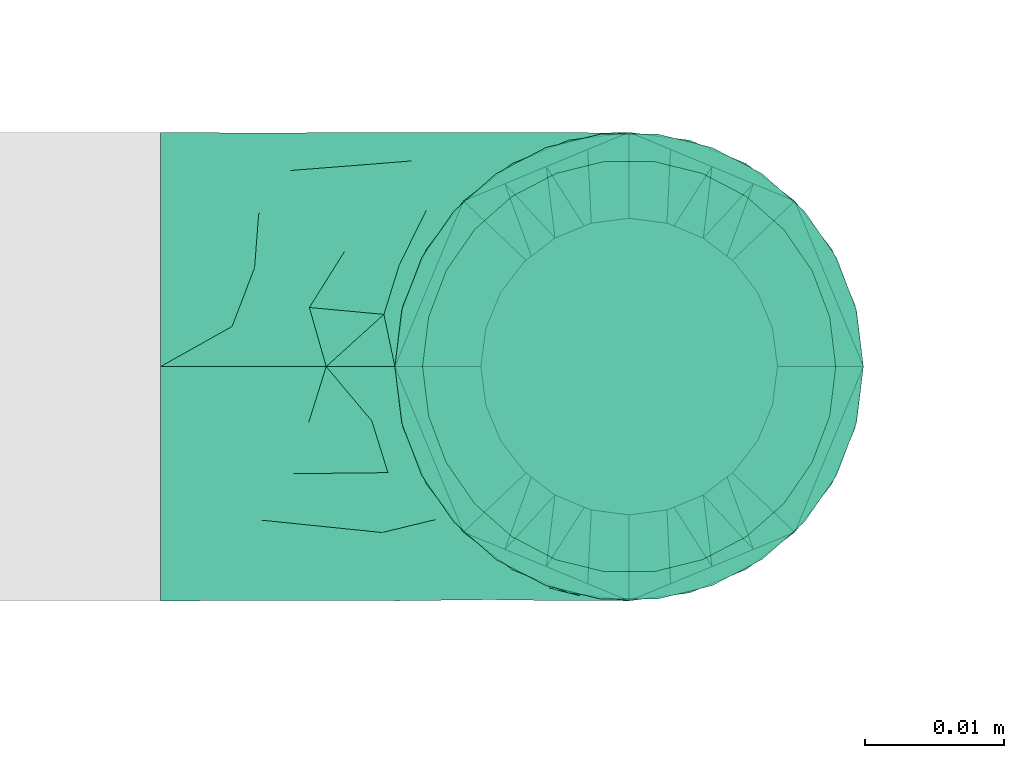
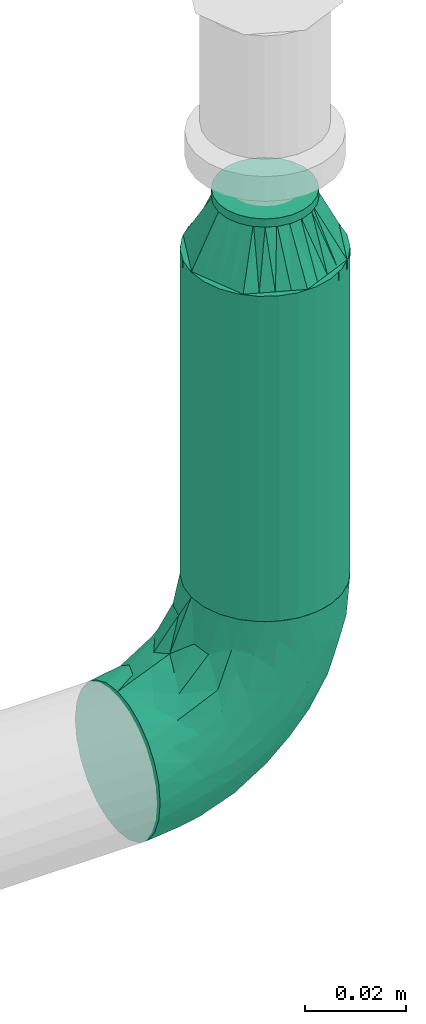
# One storey, part 70 of 94: 2 flow fittings, 1 flow segment.
"""IFC2X3 building model written with IfcOpenShell, lengths in millimetres."""

import ifcopenshell
import ifcopenshell.guid

model = None  # the IFC model being written
_history = None  # IfcOwnerHistory: only IFC2X3 demands one
_inside = {}  # id of a spatial element -> (the spatial element, [elements in it])
_under = {}  # id of a project, library or spatial element -> (it, [spatial elements below it])
_declared = {}  # id of a project -> (the project, [libraries it declares])
_typed = {}  # id of a type object -> (the type object, [elements of that type])
_made_of = {}  # id of a material, layer set ... -> (it, [elements and type objects made of it])


def new_model(schema):
    """Start an empty IFC model of exactly this schema.

    Asked for "IFC4X3", IfcOpenShell would pick the latest addendum, in which some entities
    have other attributes; the version numbers below select the first issue.
    IFC2X3 requires an IfcOwnerHistory on every rooted entity: one is made here for all.
    """
    global model, _history
    if schema == "IFC4X3":
        model = ifcopenshell.file(schema_version=(4, 3, 0, 0))
    else:
        model = ifcopenshell.file(schema=schema)
    _inside.clear()
    _under.clear()
    _declared.clear()
    _typed.clear()
    _made_of.clear()
    _history = None
    if model.schema == "IFC2X3":
        org = make("IfcOrganization", Name="unknown")
        user = make(
            "IfcPersonAndOrganization",
            ThePerson=make("IfcPerson", FamilyName="unknown"),
            TheOrganization=org,
        )
        app = make(
            "IfcApplication",
            ApplicationDeveloper=org,
            Version="unknown",
            ApplicationFullName="unknown",
            ApplicationIdentifier="unknown",
        )
        _history = make(
            "IfcOwnerHistory",
            OwningUser=user,
            OwningApplication=app,
            ChangeAction="ADDED",
            CreationDate=0,
        )
    return model


def make(cls, **values):
    """One entity of the class cls with the attributes given. An attribute that is None is left unset."""
    return model.create_entity(
        cls, **{name: value for name, value in values.items() if value is not None}
    )


def entity(cls, *values):
    """Any entity or typed value of the class cls, its attributes in the order of the schema. None: left unset."""
    e = model.create_entity(cls)
    for i, value in enumerate(values):
        if value is not None:
            e[i] = value
    return e


def rooted(cls, **values):
    """An entity with a GlobalId (a new one), such as an element, a storey or a relation."""
    return make(cls, GlobalId=ifcopenshell.guid.new(), OwnerHistory=_history, **values)


def si_unit(unit_type, name, prefix=None):
    """IfcSIUnit, for example si_unit("LENGTHUNIT", "METRE", prefix="MILLI")."""
    return make("IfcSIUnit", UnitType=unit_type, Prefix=prefix, Name=name)


def converted_unit(unit_type, name, factor, base, dimensions=None, offset=None):
    """IfcConversionBasedUnit, such as the inch: factor (a typed value) times the base unit."""
    return make(
        "IfcConversionBasedUnit"
        if offset is None
        else "IfcConversionBasedUnitWithOffset",
        ConversionOffset=offset,
        Dimensions=None
        if dimensions is None
        else entity("IfcDimensionalExponents", *dimensions),
        UnitType=unit_type,
        Name=name,
        ConversionFactor=make(
            "IfcMeasureWithUnit", ValueComponent=factor, UnitComponent=base
        ),
    )


def derived_unit(unit_type, elements):
    """IfcDerivedUnit: a product of units, each with its exponent."""
    return make(
        "IfcDerivedUnit",
        Elements=[
            make("IfcDerivedUnitElement", Unit=unit, Exponent=power)
            for unit, power in elements
        ],
        UnitType=unit_type,
    )


def assignment(units):
    """IfcUnitAssignment: the units of a project."""
    return None if units is None else make("IfcUnitAssignment", Units=units)


def point(xyz):
    """IfcCartesianPoint."""
    return None if xyz is None else make("IfcCartesianPoint", Coordinates=xyz)


def direction(xyz):
    """IfcDirection."""
    return None if xyz is None else make("IfcDirection", DirectionRatios=xyz)


def frame(location, z_axis=None, x_axis=None):
    """IfcAxis2Placement3D, a coordinate frame: its origin and axes. An axis left out is left unset."""
    return make(
        "IfcAxis2Placement3D",
        Location=point(location),
        Axis=direction(z_axis),
        RefDirection=direction(x_axis),
    )


def frame_2d(location, x_axis=None):
    """IfcAxis2Placement2D, a coordinate frame in the plane: its origin and x axis."""
    return make(
        "IfcAxis2Placement2D", Location=point(location), RefDirection=direction(x_axis)
    )


def origin_with_axes():
    """The frame at (0, 0, 0) with the z axis (0, 0, 1) and the x axis (1, 0, 0) written out."""
    return frame((0.0, 0.0, 0.0), z_axis=(0.0, 0.0, 1.0), x_axis=(1.0, 0.0, 0.0))


def origin_2d_with_axis():
    """The frame at (0, 0) in the plane with the x axis (1, 0) written out."""
    return frame_2d((0.0, 0.0), x_axis=(1.0, 0.0))


def place(relative_to, where):
    """IfcLocalPlacement: puts the frame where relative to a parent placement (None: the world)."""
    return make(
        "IfcLocalPlacement", PlacementRelTo=relative_to, RelativePlacement=where
    )


def context(
    kind, dimensions, precision=None, world=None, true_north=None, identifier=None
):
    """IfcGeometricRepresentationContext, for example the 3D "Model" context."""
    return make(
        "IfcGeometricRepresentationContext",
        ContextIdentifier=identifier,
        ContextType=kind,
        CoordinateSpaceDimension=dimensions,
        Precision=precision,
        WorldCoordinateSystem=world,
        TrueNorth=true_north,
    )


def subcontext(parent, identifier, kind, view, scale=None):
    """IfcGeometricRepresentationSubContext, for example "Body" below "Model"."""
    return make(
        "IfcGeometricRepresentationSubContext",
        ContextIdentifier=identifier,
        ContextType=kind,
        ParentContext=parent,
        TargetScale=scale,
        TargetView=view,
    )


def project(units=None, contexts=None):
    """IfcProject with its units and contexts."""
    return rooted(
        "IfcProject",
        Name="project",
        RepresentationContexts=contexts,
        UnitsInContext=assignment(units),
    )


def spatial(cls, under=None, at=None, **own):
    """A site, building, storey or space (cls), placed at a placement, below another one or the project."""
    s = rooted(cls, ObjectPlacement=at, **own)
    if under is not None:
        _under.setdefault(under.id(), (under, []))[1].append(s)
    return s


def profile(cls, at=None, kind="AREA", **sizes):
    """A parametric profile (cls). Its sizes go by their IFC names, for example OverallWidth=200.0."""
    return make(cls, ProfileType=kind, Position=at, **sizes)


def hollow_circle(**sizes):
    """IfcCircleHollowProfileDef."""
    return profile("IfcCircleHollowProfileDef", **sizes)


def extrude(swept, where, along, depth):
    """IfcExtrudedAreaSolid: the profile swept, set in the frame where, extruded along a direction by depth."""
    return make(
        "IfcExtrudedAreaSolid",
        SweptArea=swept,
        Position=where,
        ExtrudedDirection=direction(along),
        Depth=depth,
    )


def faces_of(points, faces, orient=None, outer=None):
    """IfcFace entities. A face is a list of loops; a loop is a list of indices into points, from 0.

    orient and outer hold one flag for each loop. By default every Orientation is true, the
    first loop of a face is its IfcFaceOuterBound and the others are IfcFaceBound.
    """
    made = []
    for i, loops in enumerate(faces):
        bounds = []
        for j, loop in enumerate(loops):
            is_outer = j == 0 if outer is None else outer[i][j]
            bounds.append(
                make(
                    "IfcFaceOuterBound" if is_outer else "IfcFaceBound",
                    Bound=make("IfcPolyLoop", Polygon=[points[k] for k in loop]),
                    Orientation=True if orient is None else orient[i][j],
                )
            )
        made.append(make("IfcFace", Bounds=bounds))
    return made


def open_shell(faces, orient=None, outer=None):
    """The faces of one IfcOpenShell. surface_model builds it on its shared points."""
    return ("IfcOpenShell", faces, orient, outer)


def surface_model(cls, points, shells):
    """IfcFaceBasedSurfaceModel or IfcShellBasedSurfaceModel (cls): surfaces that need not close."""
    shared = [point(p) for p in points]
    made = [make(c, CfsFaces=faces_of(shared, fs, o, b)) for c, fs, o, b in shells]
    if cls == "IfcFaceBasedSurfaceModel":
        return make(cls, FbsmFaces=made)
    return make(cls, SbsmBoundary=made)


def shape(context_of_items, identifier, shape_type, items):
    """IfcShapeRepresentation: the items that make up one representation, for example the "Body"."""
    return make(
        "IfcShapeRepresentation",
        ContextOfItems=context_of_items,
        RepresentationIdentifier=identifier,
        RepresentationType=shape_type,
        Items=items,
    )


def source(mapping_origin, context_of_items, identifier, shape_type, items):
    """IfcRepresentationMap: a shape defined once, which mapped items show again and again."""
    return make(
        "IfcRepresentationMap",
        MappingOrigin=mapping_origin,
        MappedRepresentation=shape(context_of_items, identifier, shape_type, items),
    )


def transform(
    local_origin,
    x_axis=None,
    y_axis=None,
    z_axis=None,
    scale=None,
    scale2=None,
    scale3=None,
    uniform=True,
):
    """IfcCartesianTransformationOperator3D, or its non-uniform kind. x_axis, y_axis, z_axis: its Axis1, 2, 3."""
    if uniform:
        return make(
            "IfcCartesianTransformationOperator3D",
            Axis1=direction(x_axis),
            Axis2=direction(y_axis),
            LocalOrigin=point(local_origin),
            Scale=scale,
            Axis3=direction(z_axis),
        )
    return make(
        "IfcCartesianTransformationOperator3DnonUniform",
        Axis1=direction(x_axis),
        Axis2=direction(y_axis),
        LocalOrigin=point(local_origin),
        Scale=scale,
        Axis3=direction(z_axis),
        Scale2=scale2,
        Scale3=scale3,
    )


def mapped(mapping_source, mapping_target):
    """IfcMappedItem: shows the shape of a source again, moved by a transform."""
    return make(
        "IfcMappedItem", MappingSource=mapping_source, MappingTarget=mapping_target
    )


def made_of(thing, what):
    """Note that an element or type object is made of a material, layer set ...; save() writes the relation."""
    if what is not None:
        _made_of.setdefault(what.id(), (what, []))[1].append(thing)
    return thing


def type_object(cls, material=None, **own):
    """A type object (cls), such as IfcWallType, which elements share."""
    return made_of(rooted(cls, **own), material)


def element(
    cls,
    number,
    at=None,
    inside=None,
    cuts=None,
    type_object=None,
    material=None,
    context=None,
    identifier="Body",
    shape_type=None,
    held_by="IfcProductDefinitionShape",
    body=None,
    shapes=None,
    **own,
):
    """One element of the class cls, such as IfcWall. Its Tag is "e" and its number.

    at: its placement. inside: the storey or other place that contains it. cuts: it is an
    opening in that element (IfcRelVoidsElement). A single representation is given by context,
    identifier, shape_type and body (its items); several are given by shapes. held_by: the class
    of the entity that holds the representations. save() writes the other relations.
    """
    e = rooted(cls, Tag="e%d" % number, ObjectPlacement=at, **own)
    if body is not None:
        shapes = [shape(context, identifier, shape_type, body)]
    if shapes is not None:
        e.Representation = make(held_by, Representations=shapes)
    if inside is not None:
        _inside.setdefault(inside.id(), (inside, []))[1].append(e)
    if cuts is not None:
        rooted(
            "IfcRelVoidsElement", RelatingBuildingElement=cuts, RelatedOpeningElement=e
        )
    if type_object is not None:
        _typed.setdefault(type_object.id(), (type_object, []))[1].append(e)
    return made_of(e, material)


def aggregate(whole, parts):
    """IfcRelAggregates: a whole, such as a stair, and the parts it consists of."""
    return rooted("IfcRelAggregates", RelatingObject=whole, RelatedObjects=parts)


def save(model, path):
    """Write the relations noted so far, then the file.

    IfcRelAggregates (storeys below a building ...), IfcRelContainedInSpatialStructure (elements
    in a storey), IfcRelDefinesByType, IfcRelAssociatesMaterial and IfcRelDeclares: one each for
    every whole, place, type object, material and project.
    """
    for whole, parts in _under.values():
        aggregate(whole, parts)
    for where, things in _inside.values():
        rooted(
            "IfcRelContainedInSpatialStructure",
            RelatedElements=things,
            RelatingStructure=where,
        )
    for kind, things in _typed.values():
        rooted("IfcRelDefinesByType", RelatedObjects=things, RelatingType=kind)
    for what, things in _made_of.values():
        rooted("IfcRelAssociatesMaterial", RelatedObjects=things, RelatingMaterial=what)
    for by, libraries in _declared.values():
        rooted("IfcRelDeclares", RelatingContext=by, RelatedDefinitions=libraries)
    model.write(path)


model = new_model("IFC2X3")

# Units and contexts
model_context = context("Model", 3, precision=0.01, world=frame((0.0, 4.29681676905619e-09, 0.0)), true_north=direction((4.01073788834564e-13, 1.0)))
plan_context = context("Plan", 3, precision=0.01, world=frame((0.0, 4.29681676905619e-09, 0.0)), true_north=direction((4.01073788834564e-13, 1.0)))
body_context = subcontext(model_context, "Body", "Model", "MODEL_VIEW")
ifc_project = project(units=[converted_unit("PLANEANGLEUNIT", "DEGREE", entity("IfcPositiveLengthMeasure", 0.0174532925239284), si_unit("PLANEANGLEUNIT", "RADIAN"), dimensions=[0, 0, 0, 0, 0, 0, 0]), si_unit("AREAUNIT", "SQUARE_METRE"), si_unit("LENGTHUNIT", "METRE", prefix="MILLI"), si_unit("MASSUNIT", "GRAM", prefix="KILO"), si_unit("POWERUNIT", "WATT"), si_unit("PRESSUREUNIT", "PASCAL"), si_unit("FORCEUNIT", "NEWTON", prefix="KILO"), si_unit("ELECTRICCURRENTUNIT", "AMPERE"), si_unit("THERMODYNAMICTEMPERATUREUNIT", "DEGREE_CELSIUS"), si_unit("TIMEUNIT", "SECOND"), si_unit("VOLUMEUNIT", "CUBIC_METRE"), derived_unit("LINEARVELOCITYUNIT", [(si_unit("LENGTHUNIT", "METRE"), 1), (si_unit("TIMEUNIT", "SECOND"), -1)]), derived_unit("VOLUMETRICFLOWRATEUNIT", [(si_unit("VOLUMEUNIT", "CUBIC_METRE"), 1), (si_unit("TIMEUNIT", "SECOND"), -1)]), derived_unit("THERMALTRANSMITTANCEUNIT", [(si_unit("POWERUNIT", "WATT"), 1), (si_unit("THERMODYNAMICTEMPERATUREUNIT", "KELVIN"), -1), (si_unit("AREAUNIT", "SQUARE_METRE"), -1)])], contexts=[model_context, plan_context])

# Site, building, storey
site_placement = place(None, frame((0.0, -4.29681676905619e-09, 0.0), z_axis=(0.0, 0.0, 1.0), x_axis=(1.0, 0.0, 0.0)))
site = spatial("IfcSite", under=ifc_project, at=site_placement, CompositionType="ELEMENT")
building_placement = place(site_placement, frame((0.0, 4.29681676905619e-09, 0.0), z_axis=(0.0, 0.0, 1.0), x_axis=(1.0, 0.0, 0.0)))
building = spatial("IfcBuilding", under=site, at=building_placement, Name="mc-building", CompositionType="ELEMENT")
storey_placement = place(building_placement, frame((0.0, 0.0, 200300.0), z_axis=(0.0, 0.0, 1.0), x_axis=(1.0, 0.0, 0.0)))
storey = spatial("IfcBuildingStorey", under=building, at=storey_placement, Name="Nivå C", CompositionType="ELEMENT", Elevation=200300.0)

# Flow fittings
pipe_fitting_type_1 = type_object("IfcPipeFittingType", Name="magi_pipe_fe_reducer_centric_short_NOR", PredefinedType="TRANSITION")
shared_shape_1 = source(origin_with_axes(), body_context, "Body", "SurfaceModel", [
    surface_model("IfcShellBasedSurfaceModel", [(14.4, 5.35, -9.26647), (14.4, 0.0, -10.7), (14.4, 2.76936, -10.33541), (14.4, 10.33541, -2.76936), (14.4, 7.56604, -7.56604), (14.4, -10.33541, -2.76936), (14.4, 9.26647, -5.35), (14.4, 0.0, 10.7), (14.4, -5.35, -9.26647), (14.4, -2.76936, -10.33541), (14.4, -7.56604, -7.56604), (14.4, -9.26647, -5.35), (14.4, 10.7, 0.0), (14.4, 10.33541, 2.76936), (14.4, 9.26647, 5.35), (14.4, 7.56604, 7.56604), (14.4, 2.76936, 10.33541), (14.4, 5.35, 9.26647), (14.4, -10.33541, 2.76936), (14.4, -7.56604, 7.56604), (14.4, -9.26647, 5.35), (14.4, -10.7, 0.0), (14.4, -2.76936, 10.33541), (14.4, -5.35, 9.26647), (12.4, 2.76936, 10.33541), (12.4, -10.33541, -2.76936), (12.4, 0.0, 10.7), (12.4, 5.35, 9.26647), (12.4, 7.56604, 7.56604), (12.4, 9.26647, 5.35), (12.4, 10.33541, 2.76936), (12.4, -10.33541, 2.76936), (12.4, -2.76936, 10.33541), (12.4, -7.56604, 7.56604), (12.4, -5.35, 9.26647), (12.4, -9.26647, 5.35), (12.4, -10.7, 0.0), (12.4, 10.33541, -2.76936), (12.4, 5.35, -9.26647), (12.4, 9.26647, -5.35), (12.4, 7.56604, -7.56604), (12.4, 2.76936, -10.33541), (12.4, -9.26647, -5.35), (12.4, -5.35, -9.26647), (12.4, -7.56604, -7.56604), (12.4, 0.0, -10.7), (12.4, -2.76936, -10.33541), (12.4, 10.7, 0.0), (-2.0, 11.9501, 11.9501), (-2.0, 0.0, 16.9), (-2.0, 4.37404, 16.32415), (-2.0, 8.45, 14.63583), (-2.0, 14.63583, 8.45), (-2.0, 16.32415, 4.37404), (-2.0, -16.32415, 4.37404), (-2.0, -8.45, 14.63583), (-2.0, -14.63583, 8.45), (-2.0, -11.9501, 11.9501), (-2.0, -4.37404, 16.32415), (-2.0, -16.32415, -4.37404), (-2.0, -16.9, 0.0), (-2.0, -8.45, -14.63583), (-2.0, 16.32415, -4.37404), (-2.0, 11.9501, -11.9501), (-2.0, 14.63583, -8.45), (-2.0, 8.45, -14.63583), (-2.0, 4.37404, -16.32415), (-2.0, 0.0, -16.9), (-2.0, -11.9501, -11.9501), (-2.0, -14.63583, -8.45), (-2.0, -4.37404, -16.32415), (-2.0, 16.9, 0.0), (0.0, 4.37404, -16.32415), (0.0, 8.45, -14.63583), (0.0, 11.9501, -11.9501), (0.0, 0.0, -16.9), (0.0, 16.32415, -4.37404), (0.0, 16.32415, 4.37404), (0.0, 14.63583, -8.45), (0.0, -8.45, -14.63583), (0.0, -4.37404, -16.32415), (0.0, -11.9501, -11.9501), (0.0, -16.32415, -4.37404), (0.0, -14.63583, -8.45), (0.0, -16.32415, 4.37404), (0.0, 16.9, 0.0), (0.0, 14.63583, 8.45), (0.0, 11.9501, 11.9501), (0.0, 4.37404, 16.32415), (0.0, 8.45, 14.63583), (0.0, 0.0, 16.9), (0.0, -14.63583, 8.45), (0.0, -16.9, 0.0), (0.0, -8.45, 14.63583), (0.0, -11.9501, 11.9501), (0.0, -4.37404, 16.32415), (12.4, 9.3625, -2.31662), (0.0, 14.42505, -5.97505), (0.0, 15.66253, -2.98753), (12.4, -6.6875, -6.94985), (0.0, -13.18758, -8.96258), (0.0, 2.98753, -15.66253), (12.4, 0.0, -9.26647), (12.4, 6.6875, -6.94985), (0.0, 8.96258, -13.18758), (12.4, -9.3625, -2.31662), (0.0, -15.66253, -2.98753), (0.0, -14.42505, -5.97505), (0.0, 5.97505, -14.42505), (0.0, -2.98753, -15.66253), (0.0, -8.96258, -13.18758), (0.0, 13.18758, -8.96258), (12.4, 8.025, -4.63324), (12.4, -2.675, -9.26647), (12.4, 2.675, -9.26647), (0.0, -5.97505, -14.42505), (12.4, -8.025, -4.63324), (12.4, -9.3625, 2.31662), (0.0, -14.42505, 5.97505), (0.0, -15.66253, 2.98753), (12.4, 6.6875, 6.94985), (0.0, 13.18758, 8.96258), (0.0, -2.98753, 15.66253), (12.4, 0.0, 9.26647), (12.4, -6.6875, 6.94985), (0.0, -8.96258, 13.18758), (12.4, 9.3625, 2.31662), (0.0, 15.66253, 2.98753), (0.0, 14.42505, 5.97505), (0.0, -5.97505, 14.42505), (0.0, 2.98753, 15.66253), (0.0, 8.96258, 13.18758), (0.0, -13.18758, 8.96258), (12.4, -8.025, 4.63324), (12.4, 2.675, 9.26647), (12.4, -2.675, 9.26647), (0.0, 5.97505, 14.42505), (12.4, 8.025, 4.63324)], [open_shell([[[0, 1, 2]], [[3, 0, 4]], [[5, 0, 3]], [[3, 4, 6]], [[7, 5, 3]], [[1, 8, 9]], [[1, 0, 8]], [[10, 5, 11]], [[5, 10, 8]], [[0, 5, 8]], [[3, 12, 13]], [[13, 14, 15]], [[13, 15, 16]], [[7, 3, 16]], [[16, 15, 17]], [[7, 18, 5]], [[18, 19, 20]], [[21, 5, 18]], [[19, 22, 23]], [[22, 19, 18]], [[7, 22, 18]], [[13, 16, 3]], [[24, 25, 26]], [[27, 25, 24]], [[28, 29, 30]], [[28, 25, 27]], [[31, 26, 25]], [[32, 33, 34]], [[33, 32, 31]], [[33, 31, 35]], [[32, 26, 31]], [[31, 25, 36]], [[30, 37, 28]], [[25, 28, 37]], [[38, 37, 39]], [[37, 38, 25]], [[38, 39, 40]], [[41, 25, 38]], [[42, 43, 44]], [[43, 42, 25]], [[43, 45, 46]], [[43, 25, 41]], [[41, 45, 43]], [[37, 30, 47]], [[25, 5, 36]], [[42, 11, 25]], [[8, 44, 43]], [[42, 44, 10]], [[9, 43, 46]], [[25, 11, 5]], [[5, 21, 36]], [[9, 8, 43]], [[10, 44, 8]], [[10, 11, 42]], [[1, 9, 46]], [[46, 45, 1]], [[41, 2, 45]], [[38, 0, 41]], [[6, 40, 39]], [[38, 40, 4]], [[3, 39, 37]], [[38, 4, 0]], [[0, 2, 41]], [[12, 3, 37]], [[6, 39, 3]], [[6, 4, 40]], [[47, 12, 37]], [[45, 2, 1]], [[30, 13, 47]], [[29, 14, 30]], [[17, 28, 27]], [[29, 28, 15]], [[16, 27, 24]], [[30, 14, 13]], [[13, 12, 47]], [[16, 17, 27]], [[15, 28, 17]], [[15, 14, 29]], [[7, 16, 24]], [[24, 26, 7]], [[32, 22, 26]], [[34, 23, 32]], [[20, 33, 35]], [[34, 33, 19]], [[18, 35, 31]], [[34, 19, 23]], [[23, 22, 32]], [[21, 18, 31]], [[20, 35, 18]], [[20, 19, 33]], [[36, 21, 31]], [[26, 22, 7]], [[48, 49, 50]], [[48, 50, 51]], [[48, 52, 53]], [[48, 53, 49]], [[49, 53, 54]], [[55, 56, 57]], [[55, 58, 49]], [[56, 55, 49]], [[49, 54, 56]], [[54, 59, 60]], [[54, 53, 61]], [[53, 62, 63]], [[63, 62, 64]], [[63, 65, 66]], [[61, 53, 63]], [[67, 63, 66]], [[59, 68, 69]], [[68, 59, 61]], [[61, 67, 70]], [[59, 54, 61]], [[63, 67, 61]], [[53, 71, 62]], [[72, 73, 74]], [[75, 72, 74]], [[74, 76, 77]], [[76, 74, 78]], [[74, 77, 79]], [[75, 79, 80]], [[75, 74, 79]], [[81, 82, 83]], [[82, 81, 79]], [[79, 84, 82]], [[77, 76, 85]], [[77, 86, 87]], [[77, 87, 88]], [[88, 84, 79]], [[88, 87, 89]], [[84, 88, 90]], [[90, 91, 84]], [[92, 82, 84]], [[91, 93, 94]], [[91, 90, 93]], [[93, 90, 95]], [[79, 77, 88]], [[59, 82, 60]], [[69, 83, 59]], [[79, 68, 61]], [[69, 68, 81]], [[80, 61, 70]], [[59, 83, 82]], [[82, 92, 60]], [[80, 79, 61]], [[81, 68, 79]], [[81, 83, 69]], [[75, 80, 70]], [[70, 67, 75]], [[66, 72, 67]], [[65, 73, 66]], [[78, 63, 64]], [[65, 63, 74]], [[76, 64, 62]], [[65, 74, 73]], [[73, 72, 66]], [[85, 76, 62]], [[78, 64, 76]], [[78, 74, 63]], [[71, 85, 62]], [[67, 72, 75]], [[53, 77, 71]], [[52, 86, 53]], [[89, 48, 51]], [[52, 48, 87]], [[88, 51, 50]], [[53, 86, 77]], [[77, 85, 71]], [[88, 89, 51]], [[87, 48, 89]], [[87, 86, 52]], [[90, 88, 50]], [[50, 49, 90]], [[58, 95, 49]], [[55, 93, 58]], [[91, 57, 56]], [[55, 57, 94]], [[84, 56, 54]], [[55, 94, 93]], [[93, 95, 58]], [[92, 84, 54]], [[91, 56, 84]], [[91, 94, 57]], [[60, 92, 54]], [[49, 95, 90]], [[27, 34, 47]], [[47, 34, 43]], [[43, 38, 47]], [[43, 34, 36]], [[90, 87, 94]], [[92, 94, 87]], [[87, 74, 92]], [[75, 92, 74]], [[81, 92, 75]], [[74, 87, 85]], [[96, 97, 98]], [[81, 99, 100]], [[101, 102, 75]], [[98, 85, 47]], [[74, 103, 104]], [[104, 103, 38]], [[105, 106, 107]], [[38, 108, 104]], [[102, 109, 75]], [[110, 99, 81]], [[47, 96, 98]], [[103, 111, 112]], [[109, 102, 113]], [[36, 92, 106]], [[102, 101, 114]], [[110, 115, 43]], [[96, 112, 97]], [[107, 116, 105]], [[36, 106, 105]], [[113, 115, 109]], [[43, 115, 113]], [[116, 107, 100]], [[108, 38, 114]], [[111, 103, 74]], [[111, 97, 112]], [[99, 110, 43]], [[116, 100, 99]], [[101, 108, 114]], [[117, 118, 119]], [[87, 120, 121]], [[122, 123, 90]], [[119, 92, 36]], [[94, 124, 125]], [[125, 124, 34]], [[126, 127, 128]], [[34, 129, 125]], [[123, 130, 90]], [[131, 120, 87]], [[36, 117, 119]], [[124, 132, 133]], [[130, 123, 134]], [[47, 85, 127]], [[123, 122, 135]], [[131, 136, 27]], [[117, 133, 118]], [[128, 137, 126]], [[47, 127, 126]], [[134, 136, 130]], [[27, 136, 134]], [[137, 128, 121]], [[129, 34, 135]], [[132, 124, 94]], [[132, 118, 133]], [[120, 131, 27]], [[137, 121, 120]], [[122, 129, 135]]])]),
])
flow_fitting_1_placement = place(storey_placement, frame((530503.58385, 407003.74497, 2962.64799999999), z_axis=(0.0, -1.0, 0.0), x_axis=(0.0, 0.0, 1.0)))
element("IfcFlowFitting", 1, at=flow_fitting_1_placement, inside=storey, type_object=pipe_fitting_type_1, Name="magi_pipe_fe_reducer_centric_short_NOR", context=body_context, shape_type="MappedRepresentation", body=[
    mapped(shared_shape_1, transform((0.0, 0.0, 0.0), scale=1.0)),
])
pipe_fitting_type_2 = type_object("IfcPipeFittingType", Name="magi_pipe_fe_elbow_short_001", PredefinedType="BEND")
shared_shape_2 = source(origin_with_axes(), body_context, "Body", "SurfaceModel", [
    surface_model("IfcShellBasedSurfaceModel", [(-33.8, 8.45, -14.63583), (-33.8, 4.37404, -16.32415), (-33.8, 11.9501, -11.9501), (-33.8, -11.9501, -11.9501), (-33.8, -14.63583, -8.45), (-33.8, -8.45, -14.63583), (-33.8, 0.0, -16.9), (-33.8, -4.37404, -16.32415), (-33.8, -4.37404, 16.32415), (-33.8, 0.0, 16.9), (-33.8, -8.45, 14.63583), (-33.8, 16.32415, -4.37404), (-33.8, 14.63583, -8.45), (-33.8, -16.32415, -4.37404), (-33.8, -16.9, 0.0), (-33.8, -16.32415, 4.37404), (-33.8, 11.9501, 11.9501), (-33.8, 14.63583, 8.45), (-33.8, 16.32415, 4.37404), (-33.8, 4.37404, 16.32415), (-33.8, 8.45, 14.63583), (-33.8, -14.63583, 8.45), (-33.8, -11.9501, 11.9501), (-33.8, 16.9, 0.0), (-11.9501, 33.8, -11.9501), (0.0, 33.8, -16.9), (-4.37404, 33.8, -16.32415), (-8.45, 33.8, -14.63583), (-14.63583, 33.8, -8.45), (-16.32415, 33.8, -4.37404), (14.63583, 33.8, -8.45), (8.45, 33.8, 14.63583), (16.32415, 33.8, -4.37404), (8.45, 33.8, -14.63583), (11.9501, 33.8, -11.9501), (4.37404, 33.8, -16.32415), (16.32415, 33.8, 4.37404), (16.9, 33.8, 0.0), (-11.9501, 33.8, 11.9501), (-16.32415, 33.8, 4.37404), (-14.63583, 33.8, 8.45), (-8.45, 33.8, 14.63583), (-4.37404, 33.8, 16.32415), (11.9501, 33.8, 11.9501), (14.63583, 33.8, 8.45), (0.0, 33.8, 16.9), (4.37404, 33.8, 16.32415), (-16.9, 33.8, 0.0), (-24.79389, -13.12945, 9.48721), (-22.19287, -9.75018, 12.59315), (-24.09897, -14.97035, 0.0), (-14.93934, -10.76256, 8.5297), (-22.46095, -14.75051, 5.27077), (14.75051, 22.46094, 5.27077), (11.9251, 13.23888, 4.33236), (13.04069, 14.39795, 0.0), (7.71387, 13.68847, 11.55891), (9.75018, 22.19287, 12.59315), (4.10169, 13.0571, 14.04018), (-24.84007, -6.39063, 15.2048), (-25.81779, -2.23879, 16.61097), (-23.66549, 2.59054, 16.87119), (-26.50418, 14.06512, 11.08152), (-24.21253, 17.66365, 7.72657), (-29.58514, 15.86957, 7.00283), (-6.17382, -7.5455, 0.0), (-13.23888, -11.9251, 4.33236), (-14.39795, -13.04069, 0.0), (-17.81434, 18.87373, 11.97104), (-6.30846, 29.15138, 15.82987), (-2.31622, 25.28002, 16.85849), (-29.23923, 10.23435, 13.77053), (-1.45439, -2.85688, 7.61475), (-0.28326, 0.34872, 10.09509), (-5.74484, -4.04709, 10.4122), (-4.41137, 11.31918, 16.59407), (-8.39727, 3.10034, 15.7812), (-1.72649, 9.1306, 15.53089), (-17.39909, 24.75344, 7.64977), (-26.19233, 20.0512, 0.0), (-28.14518, 17.29657, 4.25857), (-26.05147, 6.6281, 15.96447), (-5.87354, 16.61944, 16.86968), (-12.51807, 12.51807, 16.48937), (-10.06312, 7.38516, 16.81295), (-3.01882, 3.01882, 13.81718), (-13.0571, -4.10169, 14.04018), (-16.82553, -0.15166, 16.38038), (10.76256, 14.93934, 8.5297), (13.12945, 24.79389, 9.48721), (6.39063, 24.84007, 15.2048), (2.23879, 25.81779, 16.61097), (-13.68847, -7.71387, 11.55891), (14.97035, 24.09897, 0.0), (-7.30894, 22.89991, 16.09489), (-10.67958, 26.17414, 14.008), (-12.78295, 18.26924, 15.06066), (-13.88562, 22.45231, 12.93244), (-18.04944, 15.16501, 14.04434), (-23.11658, 20.08178, 4.02986), (-21.84989, 21.84989, 0.0), (-18.55817, 25.48277, 3.93065), (-13.95142, 26.94732, 11.03289), (-18.57098, 7.23906, 16.59756), (-16.58335, 4.14122, 16.89279), (-17.96666, 11.46709, 15.63151), (-9.84453, 17.54304, 16.18938), (0.15166, 16.82553, 16.38038), (-23.27207, 11.47201, 14.23154), (3.84842, 5.86994, 10.70473), (-8.0212, -7.54413, 7.93275), (1.00345, -2.19508, 4.57414), (5.13203, 3.01004, 5.90201), (5.24161, 1.7543, 2.53265), (8.70457, 7.04947, 3.99182), (-20.0512, 26.19233, 0.0), (8.4852, 8.76699, 7.09296), (-4.55488, -6.72064, 4.90681), (2.05031, -2.05031, 0.0), (7.5455, 6.17382, 0.0), (-26.75399, 2.1369, -16.845), (-14.61995, 24.73803, -11.27736), (-28.45274, -13.45335, -9.81895), (-26.00469, 6.63555, -15.96645), (-23.06726, 20.04573, -4.26202), (-13.80647, -4.26506, -14.17873), (-14.67501, -0.21081, -16.07388), (-6.7902, -0.2828, -13.8478), (-24.53586, 11.08096, -14.13417), (-26.72048, 14.00837, -11.05776), (10.0967, 24.44989, -12.75976), (5.83237, 21.40218, -15.03047), (6.66249, 28.54238, -15.38093), (-20.38182, 15.48705, -12.74596), (12.53268, 21.23441, -9.15363), (12.54494, 15.67504, -5.54878), (9.7522, 12.89279, -8.66343), (-15.65186, 19.64213, -13.01327), (-12.03528, 20.66498, -14.67665), (-15.61907, 15.61906, -14.83879), (-25.56551, -15.26206, 0.0), (-24.65452, -15.12934, -5.50955), (13.45335, 28.45274, -9.81895), (15.12934, 24.65452, -5.50955), (-7.35442, -8.31014, -5.65563), (-15.67504, -12.54494, -5.54878), (-24.44989, -10.0967, -12.75976), (0.16522, 0.41303, -9.71728), (-5.70658, -5.33066, -8.89288), (-5.13869, -2.37198, -11.53565), (-21.23441, -12.53268, -9.15363), (0.71146, 7.93863, -14.09382), (0.21081, 14.67501, -16.07388), (3.49291, 14.42772, -14.76381), (-24.89911, -2.13088, -16.591), (-28.54238, -6.66249, -15.38093), (-18.44386, -7.71663, -13.26957), (2.13088, 24.89911, -16.591), (-28.64342, 17.44413, -2.89318), (1.70017, -1.28722, -5.09504), (-16.57067, 26.81947, -7.36596), (-17.69055, 27.4263, -3.76405), (-12.89279, -9.7522, -8.66343), (-5.96611, 5.96611, -15.95814), (-20.53709, 20.09345, -8.28985), (-2.1369, 26.75399, -16.845), (-6.89872, 24.58781, -16.02578), (-10.60739, 26.53157, -13.98044), (-21.40218, -5.83237, -15.03047), (2.93192, 5.89627, -11.55917), (6.89393, 12.61842, -11.82233), (5.58056, 5.95325, -8.79455), (-3.99512, 18.61798, -16.89635), (8.31014, 7.35442, -5.65563), (-9.1383, 9.86148, -16.89041), (-9.99983, 16.02119, -16.39699), (-16.68576, 9.78031, -16.34199), (-27.01915, 16.61158, -7.12979), (15.26206, 25.56551, 0.0), (-18.61798, 3.99512, -16.89635), (-19.37495, 27.82495, 0.0), (-12.61842, -6.89393, -11.82233), (-18.84705, 19.14018, -10.96545)], [open_shell([[[0, 1, 2]], [[3, 4, 5]], [[6, 7, 5]], [[8, 9, 10]], [[1, 6, 2]], [[11, 12, 2]], [[4, 2, 6]], [[2, 13, 10]], [[5, 4, 6]], [[2, 4, 13]], [[14, 15, 13]], [[11, 2, 16]], [[11, 17, 18]], [[11, 16, 17]], [[19, 20, 16]], [[16, 2, 10]], [[19, 16, 10]], [[21, 22, 15]], [[22, 13, 15]], [[22, 10, 13]], [[10, 9, 19]], [[11, 18, 23]], [[24, 25, 26]], [[24, 26, 27]], [[24, 28, 29]], [[25, 24, 30]], [[31, 32, 24]], [[33, 30, 34]], [[33, 35, 25]], [[25, 30, 33]], [[32, 30, 24]], [[32, 36, 37]], [[38, 24, 29]], [[39, 40, 29]], [[40, 38, 29]], [[38, 41, 42]], [[38, 31, 24]], [[31, 38, 42]], [[36, 43, 44]], [[36, 32, 43]], [[31, 45, 46]], [[32, 31, 43]], [[42, 45, 31]], [[39, 29, 47]], [[22, 48, 49]], [[15, 14, 50]], [[51, 48, 52]], [[53, 54, 55]], [[48, 22, 21]], [[15, 52, 21]], [[56, 57, 58]], [[49, 10, 22]], [[49, 59, 10]], [[9, 60, 61]], [[62, 63, 64]], [[65, 66, 67]], [[57, 43, 31]], [[62, 68, 63]], [[42, 69, 70]], [[20, 71, 16]], [[8, 60, 9]], [[72, 73, 74]], [[75, 76, 77]], [[16, 62, 17]], [[40, 39, 78]], [[79, 23, 80]], [[64, 18, 17]], [[9, 61, 19]], [[19, 81, 20]], [[82, 83, 84]], [[74, 85, 86]], [[59, 86, 87]], [[88, 89, 57]], [[90, 31, 46]], [[44, 53, 36]], [[46, 45, 91]], [[54, 53, 88]], [[44, 89, 53]], [[92, 86, 49]], [[89, 44, 43]], [[10, 59, 8]], [[53, 55, 93]], [[93, 36, 53]], [[66, 52, 67]], [[94, 82, 70]], [[95, 96, 94]], [[97, 98, 96]], [[79, 99, 100]], [[41, 38, 95]], [[101, 100, 99]], [[68, 78, 63]], [[42, 41, 69]], [[23, 18, 80]], [[95, 94, 69]], [[78, 101, 99]], [[38, 102, 95]], [[70, 45, 42]], [[97, 95, 102]], [[15, 50, 52]], [[90, 57, 31]], [[57, 90, 58]], [[81, 19, 61]], [[103, 104, 84]], [[105, 81, 103]], [[38, 40, 102]], [[106, 96, 83]], [[94, 106, 82]], [[91, 70, 107]], [[71, 62, 16]], [[62, 108, 98]], [[86, 59, 49]], [[67, 52, 50]], [[60, 59, 87]], [[92, 49, 51]], [[86, 85, 76]], [[91, 90, 46]], [[37, 36, 93]], [[107, 77, 58]], [[107, 58, 90]], [[58, 85, 109]], [[110, 74, 92]], [[72, 74, 110]], [[66, 51, 52]], [[72, 111, 112]], [[113, 114, 112]], [[56, 88, 57]], [[52, 48, 21]], [[49, 48, 51]], [[57, 89, 43]], [[53, 89, 88]], [[103, 81, 61]], [[71, 81, 108]], [[18, 64, 80]], [[63, 78, 99]], [[47, 115, 101]], [[101, 115, 100]], [[40, 78, 102]], [[68, 102, 78]], [[97, 96, 95]], [[105, 98, 108]], [[103, 84, 83]], [[107, 70, 82]], [[76, 84, 87]], [[82, 84, 75]], [[70, 91, 45]], [[90, 91, 107]], [[59, 60, 8]], [[61, 60, 87]], [[73, 85, 74]], [[109, 112, 116]], [[103, 61, 104]], [[105, 103, 83]], [[96, 105, 83]], [[81, 105, 108]], [[96, 98, 105]], [[62, 98, 68]], [[61, 87, 104]], [[87, 84, 104]], [[86, 76, 87]], [[77, 76, 85]], [[58, 77, 85]], [[75, 77, 107]], [[82, 75, 107]], [[76, 75, 84]], [[81, 71, 20]], [[62, 71, 108]], [[95, 69, 41]], [[70, 69, 94]], [[62, 64, 17]], [[80, 63, 99]], [[63, 80, 64]], [[80, 99, 79]], [[66, 65, 117]], [[110, 66, 117]], [[112, 114, 116]], [[118, 117, 65]], [[110, 92, 51]], [[112, 111, 113]], [[119, 55, 54]], [[74, 86, 92]], [[58, 109, 56]], [[116, 56, 109]], [[66, 110, 51]], [[72, 110, 117]], [[111, 72, 117]], [[73, 112, 109]], [[117, 118, 111]], [[113, 111, 118]], [[118, 119, 113]], [[114, 119, 54]], [[119, 114, 113]], [[116, 54, 88]], [[54, 116, 114]], [[116, 88, 56]], [[112, 73, 72]], [[85, 73, 109]], [[78, 39, 101]], [[47, 101, 39]], [[102, 68, 97]], [[97, 68, 98]], [[82, 106, 83]], [[94, 96, 106]], [[1, 120, 6]], [[28, 24, 121]], [[3, 122, 4]], [[0, 123, 1]], [[100, 124, 79]], [[125, 126, 127]], [[128, 2, 129]], [[130, 131, 132]], [[128, 129, 133]], [[134, 135, 136]], [[137, 138, 139]], [[128, 0, 2]], [[67, 140, 141]], [[134, 142, 143]], [[141, 13, 4]], [[144, 65, 145]], [[146, 3, 5]], [[147, 148, 149]], [[145, 141, 150]], [[151, 152, 153]], [[154, 7, 6]], [[5, 155, 146]], [[150, 146, 156]], [[155, 5, 7]], [[143, 135, 134]], [[35, 157, 25]], [[23, 79, 158]], [[148, 159, 144]], [[160, 161, 29]], [[145, 162, 144]], [[163, 152, 151]], [[29, 28, 160]], [[121, 164, 160]], [[33, 34, 130]], [[25, 165, 26]], [[26, 165, 166]], [[142, 34, 30]], [[24, 27, 167]], [[124, 161, 164]], [[157, 35, 132]], [[155, 154, 168]], [[123, 0, 128]], [[169, 170, 171]], [[172, 157, 152]], [[26, 166, 27]], [[132, 35, 33]], [[142, 130, 34]], [[168, 154, 126]], [[136, 135, 173]], [[133, 137, 139]], [[2, 12, 129]], [[170, 131, 130]], [[30, 32, 143]], [[172, 174, 175]], [[176, 123, 128]], [[158, 177, 11]], [[135, 55, 119]], [[167, 27, 166]], [[175, 166, 172]], [[137, 167, 138]], [[122, 141, 4]], [[140, 14, 13]], [[32, 37, 178]], [[170, 130, 134]], [[152, 157, 131]], [[165, 157, 172]], [[153, 170, 151]], [[152, 163, 174]], [[168, 125, 156]], [[122, 146, 150]], [[120, 154, 6]], [[179, 174, 126]], [[179, 126, 154]], [[126, 163, 127]], [[162, 145, 150]], [[140, 13, 141]], [[32, 178, 143]], [[55, 143, 178]], [[177, 129, 12]], [[128, 133, 139]], [[176, 128, 139]], [[120, 123, 179]], [[121, 160, 28]], [[161, 100, 180]], [[166, 175, 138]], [[121, 24, 167]], [[161, 47, 29]], [[79, 124, 158]], [[124, 164, 177]], [[161, 124, 100]], [[136, 171, 170]], [[127, 163, 151]], [[147, 171, 159]], [[148, 144, 162]], [[127, 151, 169]], [[127, 181, 125]], [[129, 177, 164]], [[12, 11, 177]], [[159, 65, 144]], [[67, 141, 145]], [[143, 55, 135]], [[135, 119, 173]], [[123, 120, 1]], [[154, 120, 179]], [[157, 165, 25]], [[166, 165, 172]], [[172, 152, 174]], [[176, 139, 175]], [[126, 174, 163]], [[176, 174, 179]], [[174, 176, 175]], [[123, 176, 179]], [[150, 181, 162]], [[127, 149, 181]], [[181, 148, 162]], [[159, 148, 147]], [[171, 136, 173]], [[170, 134, 136]], [[159, 171, 173]], [[171, 147, 169]], [[169, 147, 149]], [[151, 170, 169]], [[164, 182, 129]], [[182, 121, 137]], [[181, 149, 148]], [[169, 149, 127]], [[182, 137, 133]], [[167, 137, 121]], [[166, 138, 167]], [[175, 139, 138]], [[129, 182, 133]], [[121, 182, 164]], [[161, 160, 164]], [[47, 161, 180]], [[177, 158, 124]], [[23, 158, 11]], [[130, 132, 33]], [[157, 132, 131]], [[143, 142, 30]], [[130, 142, 134]], [[154, 155, 7]], [[146, 155, 168]], [[146, 122, 3]], [[141, 122, 150]], [[152, 131, 153]], [[159, 119, 118]], [[67, 145, 65]], [[170, 153, 131]], [[119, 159, 173]], [[159, 118, 65]], [[156, 125, 181]], [[126, 125, 168]], [[150, 156, 181]], [[168, 156, 146]]])]),
])
flow_fitting_2_placement = place(storey_placement, frame((530503.58385, 407003.74497, 2850.0), z_axis=(0.0, -1.0, 0.0), x_axis=(1.0, 0.0, 0.0)))
element("IfcFlowFitting", 2, at=flow_fitting_2_placement, inside=storey, type_object=pipe_fitting_type_2, Name="magi_pipe_fe_elbow_short_001", context=body_context, shape_type="MappedRepresentation", body=[
    mapped(shared_shape_2, transform((0.0, 0.0, 0.0), scale=1.0)),
])

# Flow segment
pipe_segment_type = type_object("IfcPipeSegmentType", Name="Stålrør normaltykke", PredefinedType="RIGIDSEGMENT")
shared_shape_3 = source(origin_with_axes(), body_context, "Body", "SweptSolid", [
    extrude(hollow_circle(Radius=16.9, WallThickness=2.0, at=origin_2d_with_axis()), frame((0.0, 0.0, 0.0), z_axis=(1.0, 0.0, 0.0), x_axis=(0.0, 1.0, 0.0)), (0.0, 0.0, 1.0), 78.8),
])
flow_segment_placement = place(storey_placement, frame((530503.58385, 407003.74497, 2883.79999999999), z_axis=(0.0, -1.0, 0.0), x_axis=(0.0, 0.0, 1.0)))
element("IfcFlowSegment", 3, at=flow_segment_placement, inside=storey, type_object=pipe_segment_type, Name="Stålrør normaltykke", context=body_context, shape_type="MappedRepresentation", body=[
    mapped(shared_shape_3, transform((0.0, 0.0, 0.0), scale=1.0)),
])

save(model, "model.ifc")
